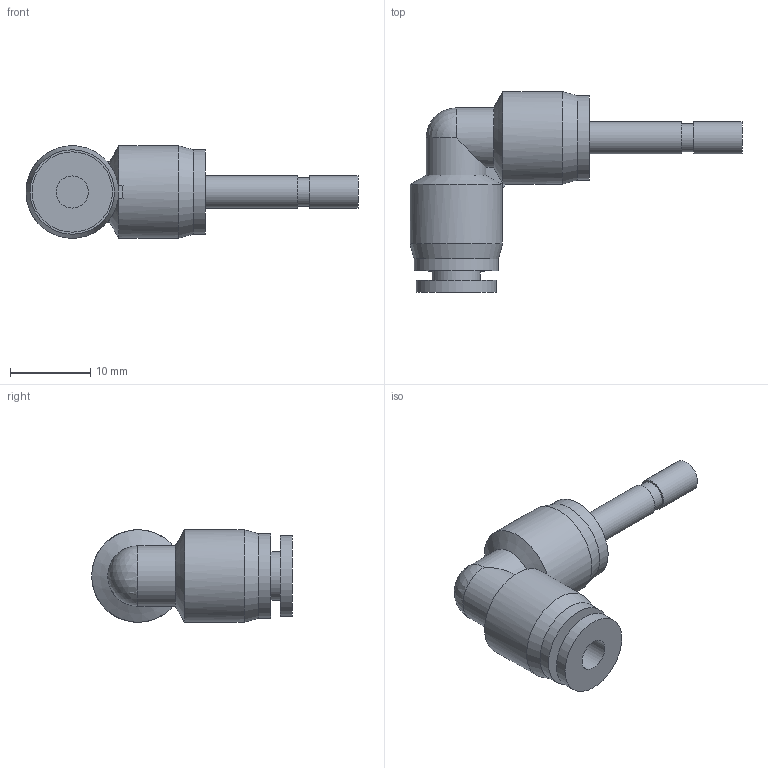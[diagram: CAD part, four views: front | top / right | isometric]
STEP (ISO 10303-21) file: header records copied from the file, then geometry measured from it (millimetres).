
FILE_DESCRIPTION((''),'2;1');
FILE_NAME('S:\UTecnico\ArchivioUT\Speciali Clienti\Speciali KONFIT\DISEGNI 3D\RP\RP 85\RP850004.stp','2013-02-18T14:02:40',('UT5'),(''),'Autodesk Inventor 2013','Autodesk Inventor 2013','');
FILE_SCHEMA(('AUTOMOTIVE_DESIGN { 1 0 10303 214 1 1 1 1 }'));
Length unit declared in the file: millimetre
Products named in the file (1): RP850004
Bounding box: 41.3 x 24.95 x 11.5 mm (x, y, z)
Volume: 2732.9 mm3; surface area: 2155.3 mm2
Topology: 1 solids, 1 shells, 29 faces, 64 edges, 41 vertices
Faces by surface type: cylinder 13, plane 11, cone 4, sphere 1
Full cylindrical faces by diameter (mm): 2 x1, 3.5 x1, 4 x3, 6 x1, 10 x1, 10.5 x2, 11.5 x2
Entity records: 768 total; most frequent: CARTESIAN_POINT 151, DIRECTION 128, ORIENTED_EDGE 88, AXIS2_PLACEMENT_3D 59, EDGE_LOOP 50, EDGE_CURVE 44, VERTEX_POINT 36, FACE_OUTER_BOUND 29
